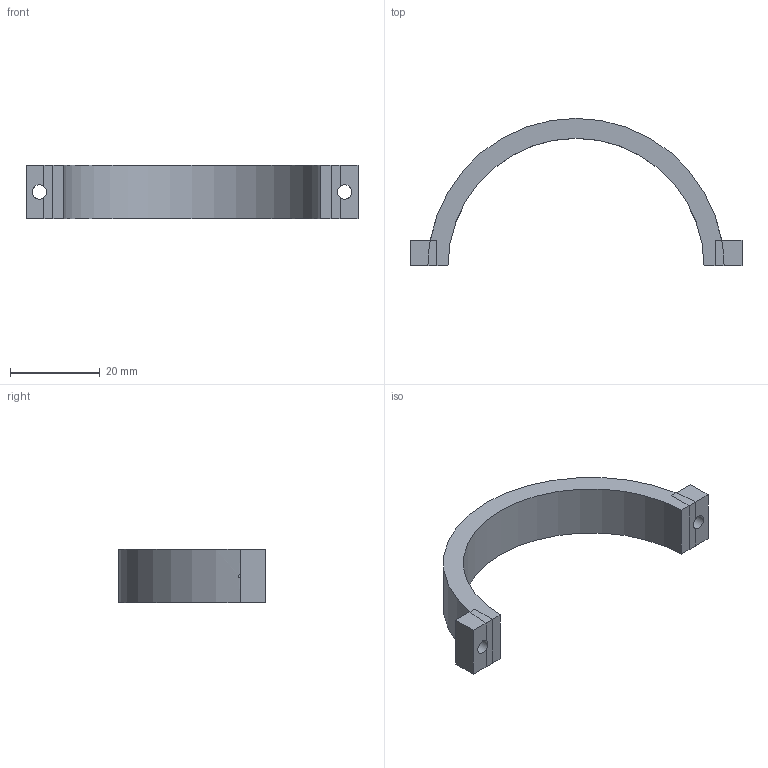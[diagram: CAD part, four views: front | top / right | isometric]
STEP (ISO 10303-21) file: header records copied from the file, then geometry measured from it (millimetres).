
FILE_DESCRIPTION(('Open CASCADE Model'),'2;1');
FILE_NAME('Open CASCADE Shape Model','2026-11-22T21:42:01',('Author'),( 'Open CASCADE'),'Open CASCADE STEP processor 7.9','Open CASCADE 7.9' ,'Unknown');
FILE_SCHEMA(('AUTOMOTIVE_DESIGN { 1 0 10303 214 1 1 1 1 }'));
Length unit declared in the file: millimetre
Products named in the file (1): Open CASCADE STEP translator 7.9 1
Bounding box: 74 x 32.8 x 12 mm (x, y, z)
Volume: 5612.7 mm3; surface area: 3652.2 mm2
Topology: 1 solids, 1 shells, 24 faces, 66 edges, 40 vertices
Faces by surface type: plane 20, cylinder 4
Full cylindrical faces by diameter (mm): 3.2 x2
Entity records: 1830 total; most frequent: CARTESIAN_POINT 541, DIRECTION 228, ORIENTED_EDGE 132, PCURVE 132, DEFINITIONAL_REPRESENTATION 132, LINE 120, VECTOR 120, EDGE_CURVE 66
